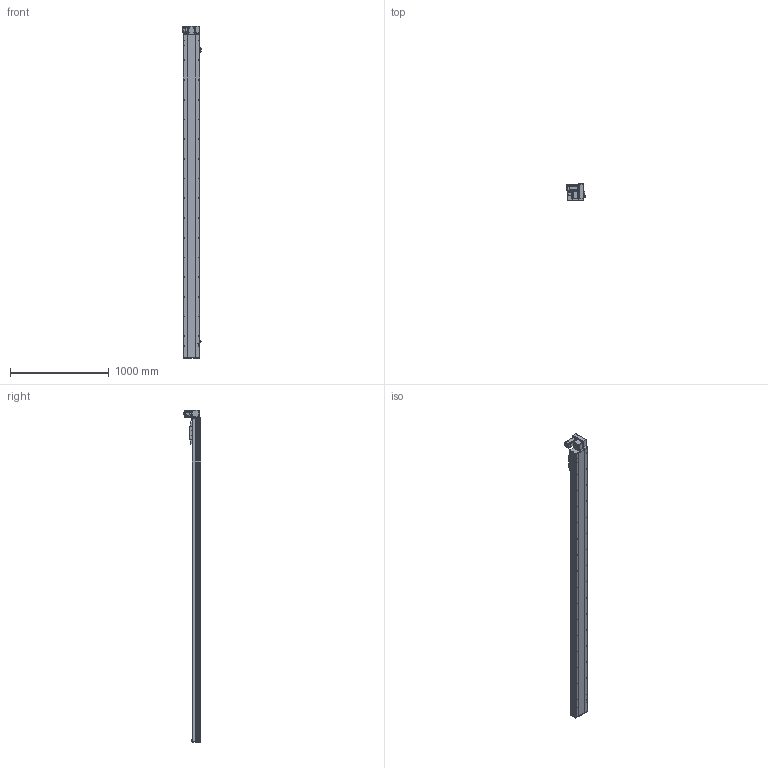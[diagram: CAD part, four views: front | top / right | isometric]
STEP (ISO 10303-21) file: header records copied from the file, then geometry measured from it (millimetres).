
FILE_DESCRIPTION (( 'STEP AP214' ), '1' );
FILE_NAME ('TPE17-L40-2950-RU-T40-C4.STEP', '2023-04-12T08:15:54', ( '' ), ( '' ), 'SwSTEP 2.0', 'SolidWorks 2020', '' );
FILE_SCHEMA (( 'AUTOMOTIVE_DESIGN' ));
Length unit declared in the file: millimetre
Products named in the file (12): 葩璃 TPT14-L-009 萇儂啣^TPE17-L40-RU-T40-C4_400W; 葩璃 TPE17 賑雄殤^TPE17-L40-RU-T40-C4; 葩璃 詩湍110^TPE17-L40-RU-T40-C4; 葩璃 侂狟400W^TPE17-L40-RU-T40-C4; 葩璃 pm-t65-672^TPE17-L40-RU-T40-C4; TPE17-L40-2950-RU-T40-C4; 葩璃 TPE17-L-007 々湍釱MZ-169x88^TPE17-L40-RU-T40-C4_TPE17; hexagon head bolts-full thread gb_GB_FASTENER_BOLT_STBAB A M5X16-N; hex nuts, style 1-grades ab gb_GB_FASTENER_NUT_SNAB1 M3-N; 葩璃 TPE17-L-001 菁釱MZ-170-01^TPE17-L40-RU-T40-C4; 葩璃 TPE17-L-002 耜裔ZTMZ-135-04^TPE17-L40-RU-T40-C4; hexagon socket head cap screws gb_GB_FASTENER_SCREWS_HSHCS M3X6-N
Assembly tree (24 placements, depth 2):
  TPE17-L40-2950-RU-T40-C4
    葩璃 TPE17-L-001 菁釱MZ-170-01^TPE17-L40-RU-T40-C4
    葩璃 TPE17-L-002 耜裔ZTMZ-135-04^TPE17-L40-RU-T40-C4  x2
    葩璃 詩湍110^TPE17-L40-RU-T40-C4
    葩璃 TPE17-L-007 々湍釱MZ-169x88^TPE17-L40-RU-T40-C4_TPE17
    葩璃 TPT14-L-009 萇儂啣^TPE17-L40-RU-T40-C4_400W
    葩璃 TPE17 賑雄殤^TPE17-L40-RU-T40-C4
    葩璃 pm-t65-672^TPE17-L40-RU-T40-C4  x3
    葩璃 侂狟400W^TPE17-L40-RU-T40-C4
    hexagon socket head cap screws gb_GB_FASTENER_SCREWS_HSHCS M3X6-N  x6
    hex nuts, style 1-grades ab gb_GB_FASTENER_NUT_SNAB1 M3-N  x6
    hexagon head bolts-full thread gb_GB_FASTENER_BOLT_STBAB A M5X16-N
Bounding box: 186.2 x 173.15 x 3369 mm (x, y, z)
Volume: 29558501.4 mm3; surface area: 3677343.4 mm2
Topology: 35 solids, 35 shells, 1778 faces, 4527 edges, 2828 vertices
Faces by surface type: plane 981, cylinder 505, cone 246, bspline 34, torus 12
Entity records: 42371 total; most frequent: CARTESIAN_POINT 8160, DIRECTION 6792, ORIENTED_EDGE 6502, EDGE_CURVE 3251, AXIS2_PLACEMENT_3D 2333, LINE 2126, VECTOR 2126, VERTEX_POINT 2091
